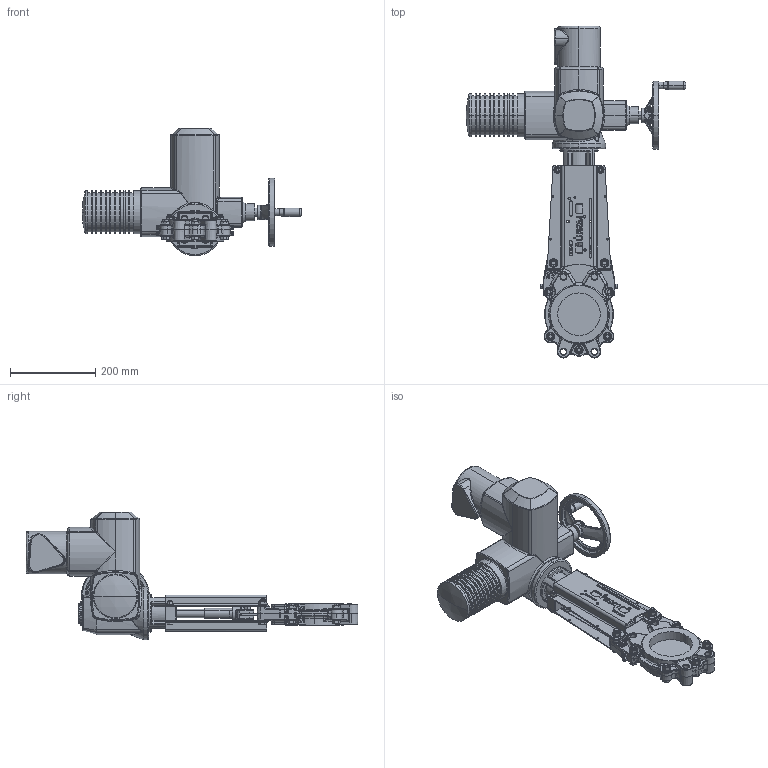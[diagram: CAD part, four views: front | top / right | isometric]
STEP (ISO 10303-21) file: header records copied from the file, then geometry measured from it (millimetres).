
FILE_DESCRIPTION (( 'STEP AP214' ), '1' );
FILE_NAME ('VSE DN 0100.STEP', '2015-09-23T11:19:12', ( 'admin' ), ( 'Hewlett-Packard Company' ), 'SwSTEP 2.0', 'SolidWorks 2013', '' );
FILE_SCHEMA (( 'AUTOMOTIVE_DESIGN' ));
Length unit declared in the file: millimetre
Products named in the file (1): VSE DN 0100
Bounding box: 516 x 780.46 x 300.5 mm (x, y, z)
Volume: 8964291.2 mm3; surface area: 802175.5 mm2
Topology: 59 solids, 63 shells, 3045 faces, 7278 edges, 4336 vertices
Faces by surface type: plane 1016, cylinder 889, cone 464, bspline 380, torus 266, sphere 30
Entity records: 140104 total; most frequent: CARTESIAN_POINT 37698, ORIENTED_EDGE 14352, DIRECTION 14217, EDGE_CURVE 7176, AXIS2_PLACEMENT_3D 5691, VERTEX_POINT 4336, EDGE_LOOP 3332, UNCERTAINTY_MEASURE_WITH_UNIT 3106
